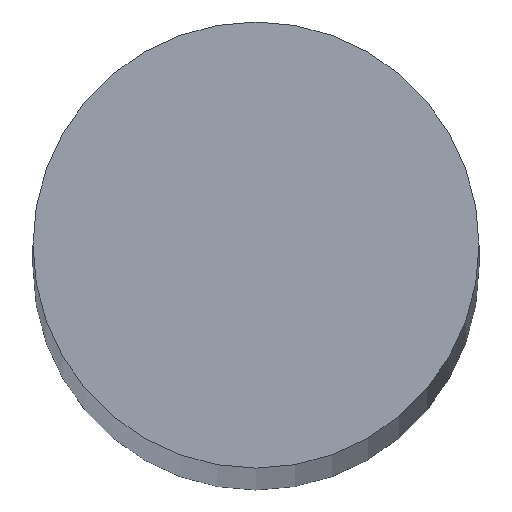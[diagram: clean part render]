
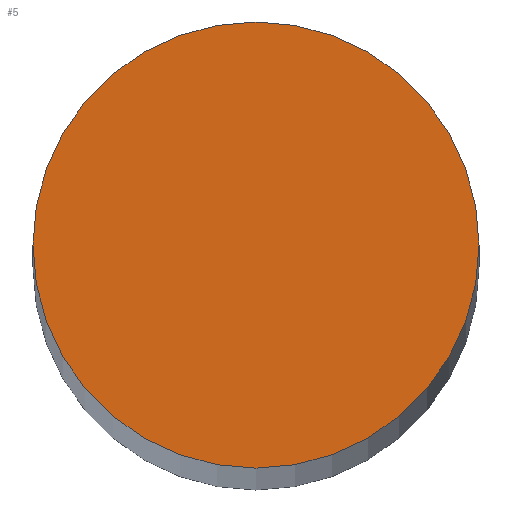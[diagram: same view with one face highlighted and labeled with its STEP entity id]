
A CAD part, top view. The second image highlights one B-rep face of the part: STEP entity #5.
In plain terms, the highlighted planar face has unit normal (0, 0, 1).
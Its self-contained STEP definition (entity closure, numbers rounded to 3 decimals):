
#2 = ORIENTED_EDGE ( 'NONE', *, *, #112, .T. ) ;
#3 = ORIENTED_EDGE ( 'NONE', *, *, #125, .T. ) ;
#5 = ADVANCED_FACE ( 'NONE', ( #83 ), #29, .T. ) ;
#19 = DIRECTION ( 'NONE',  ( 1., 0., 0. ) ) ;
#20 = DIRECTION ( 'NONE',  ( 0., 0., 1. ) ) ;
#29 = PLANE ( 'NONE',  #113 ) ;
#30 = VERTEX_POINT ( 'NONE', #62 ) ;
#31 = CARTESIAN_POINT ( 'NONE',  ( 0., 0., 168.5 ) ) ;
#46 = VERTEX_POINT ( 'NONE', #52 ) ;
#47 = CARTESIAN_POINT ( 'NONE',  ( 0., 0., 168.5 ) ) ;
#52 = CARTESIAN_POINT ( 'NONE',  ( -6., 0., 168.5 ) ) ;
#60 = DIRECTION ( 'NONE',  ( 0., 0., 1. ) ) ;
#61 = DIRECTION ( 'NONE',  ( 1., 0., 0. ) ) ;
#62 = CARTESIAN_POINT ( 'NONE',  ( 6., 0., 168.5 ) ) ;
#64 = DIRECTION ( 'NONE',  ( 0., 0., 1. ) ) ;
#66 = DIRECTION ( 'NONE',  ( 1., 0., 0. ) ) ;
#74 = CARTESIAN_POINT ( 'NONE',  ( 0., 0., 168.5 ) ) ;
#80 = EDGE_LOOP ( 'NONE', ( #3, #2 ) ) ;
#83 = FACE_OUTER_BOUND ( 'NONE', #80, .T. ) ;
#96 = CIRCLE ( 'NONE', #124, 6. ) ;
#101 = CIRCLE ( 'NONE', #128, 6. ) ;
#112 = EDGE_CURVE ( 'NONE', #30, #46, #96, .T. ) ;
#113 = AXIS2_PLACEMENT_3D ( 'NONE', #47, #60, #61 ) ;
#124 = AXIS2_PLACEMENT_3D ( 'NONE', #74, #64, #66 ) ;
#125 = EDGE_CURVE ( 'NONE', #46, #30, #101, .T. ) ;
#128 = AXIS2_PLACEMENT_3D ( 'NONE', #31, #20, #19 ) ;
